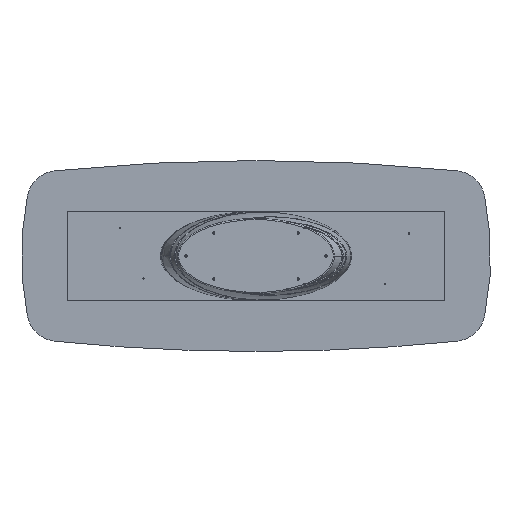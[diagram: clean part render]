
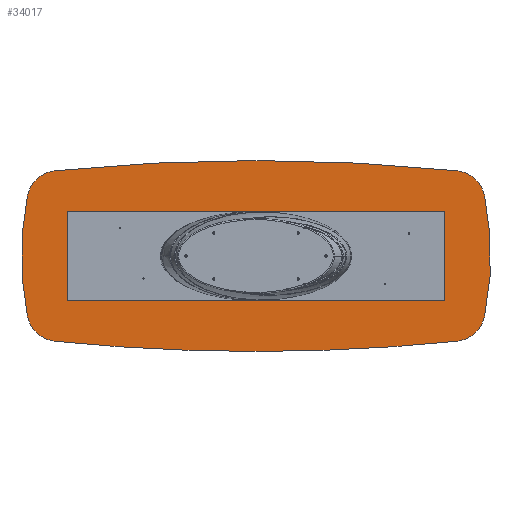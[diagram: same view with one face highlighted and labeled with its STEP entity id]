
A CAD part, front view. The second image highlights one B-rep face of the part: STEP entity #34017.
In plain terms, the highlighted planar face has unit normal (0, -1, 0).
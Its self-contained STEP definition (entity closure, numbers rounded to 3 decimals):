
#521 = AXIS2_PLACEMENT_3D ( 'NONE', #14464, #31756, #16924 ) ;
#609 = CIRCLE ( 'NONE', #30604, 200. ) ;
#918 = ORIENTED_EDGE ( 'NONE', *, *, #25051, .F. ) ;
#1035 = CARTESIAN_POINT ( 'NONE',  ( -1241.22, 50., 337.213 ) ) ;
#1151 = CIRCLE ( 'NONE', #10734, 1900. ) ;
#1593 = DIRECTION ( 'NONE',  ( 0., 0., 1. ) ) ;
#1867 = DIRECTION ( 'NONE',  ( 0., 0., 1. ) ) ;
#1869 = CARTESIAN_POINT ( 'NONE',  ( 0., 50., 11900. ) ) ;
#1921 = ORIENTED_EDGE ( 'NONE', *, *, #25863, .F. ) ;
#2047 = PLANE ( 'NONE',  #5960 ) ;
#2600 = FACE_OUTER_BOUND ( 'NONE', #9265, .T. ) ;
#3055 = EDGE_CURVE ( 'NONE', #6907, #35013, #1151, .T. ) ;
#3081 = EDGE_CURVE ( 'NONE', #29983, #25620, #26921, .T. ) ;
#3520 = AXIS2_PLACEMENT_3D ( 'NONE', #8095, #10907, #22544 ) ;
#3873 = ORIENTED_EDGE ( 'NONE', *, *, #28093, .F. ) ;
#3909 = ORIENTED_EDGE ( 'NONE', *, *, #3055, .F. ) ;
#4225 = CARTESIAN_POINT ( 'NONE',  ( -1437.245, 50., 376.885 ) ) ;
#4692 = CIRCLE ( 'NONE', #17858, 200. ) ;
#4746 = CIRCLE ( 'NONE', #22727, 200. ) ;
#5028 = ORIENTED_EDGE ( 'NONE', *, *, #19341, .F. ) ;
#5914 = CARTESIAN_POINT ( 'NONE',  ( 1261.402, 50., 536.192 ) ) ;
#5960 = AXIS2_PLACEMENT_3D ( 'NONE', #36600, #7869, #1867 ) ;
#6422 = VERTEX_POINT ( 'NONE', #35112 ) ;
#6907 = VERTEX_POINT ( 'NONE', #13263 ) ;
#7317 = DIRECTION ( 'NONE',  ( 0., 1., 0. ) ) ;
#7435 = VERTEX_POINT ( 'NONE', #5914 ) ;
#7636 = EDGE_CURVE ( 'NONE', #6422, #7435, #23919, .T. ) ;
#7869 = DIRECTION ( 'NONE',  ( 0., 1., 0. ) ) ;
#8095 = CARTESIAN_POINT ( 'NONE',  ( 0., 50., 11900. ) ) ;
#8353 = AXIS2_PLACEMENT_3D ( 'NONE', #13543, #32723, #18994 ) ;
#9265 = EDGE_LOOP ( 'NONE', ( #30167, #3909, #5028, #1921, #26702, #20692, #918, #3873, #27368 ) ) ;
#9803 = VERTEX_POINT ( 'NONE', #31034 ) ;
#9836 = DIRECTION ( 'NONE',  ( 0., 0., -1. ) ) ;
#10095 = AXIS2_PLACEMENT_3D ( 'NONE', #27298, #32574, #9836 ) ;
#10734 = AXIS2_PLACEMENT_3D ( 'NONE', #31209, #11090, #36456 ) ;
#10799 = VERTEX_POINT ( 'NONE', #33470 ) ;
#10907 = DIRECTION ( 'NONE',  ( 0., 1., 0. ) ) ;
#11090 = DIRECTION ( 'NONE',  ( 0., 1., 0. ) ) ;
#11276 = EDGE_CURVE ( 'NONE', #10799, #29983, #35946, .T. ) ;
#12539 = AXIS2_PLACEMENT_3D ( 'NONE', #1869, #7317, #27594 ) ;
#13263 = CARTESIAN_POINT ( 'NONE',  ( -1437.245, 50., -376.885 ) ) ;
#13543 = CARTESIAN_POINT ( 'NONE',  ( 1241.22, 50., -337.213 ) ) ;
#13714 = CIRCLE ( 'NONE', #10095, 1900. ) ;
#14464 = CARTESIAN_POINT ( 'NONE',  ( 0., 50., -11900. ) ) ;
#16863 = DIRECTION ( 'NONE',  ( 0., 1., 0. ) ) ;
#16924 = DIRECTION ( 'NONE',  ( 0., 0., 1. ) ) ;
#17858 = AXIS2_PLACEMENT_3D ( 'NONE', #22862, #16863, #25672 ) ;
#18994 = DIRECTION ( 'NONE',  ( 0., 0., 1. ) ) ;
#19341 = EDGE_CURVE ( 'NONE', #9803, #6907, #4692, .T. ) ;
#20692 = ORIENTED_EDGE ( 'NONE', *, *, #11276, .F. ) ;
#21138 = DIRECTION ( 'NONE',  ( 0., 0., 1. ) ) ;
#21523 = CIRCLE ( 'NONE', #12539, 12500. ) ;
#21527 = CARTESIAN_POINT ( 'NONE',  ( 1261.402, 50., -536.192 ) ) ;
#22544 = DIRECTION ( 'NONE',  ( 0., 0., -1. ) ) ;
#22727 = AXIS2_PLACEMENT_3D ( 'NONE', #35796, #23960, #21138 ) ;
#22862 = CARTESIAN_POINT ( 'NONE',  ( -1241.22, 50., -337.213 ) ) ;
#23919 = CIRCLE ( 'NONE', #521, 12500. ) ;
#23960 = DIRECTION ( 'NONE',  ( 0., 1., 0. ) ) ;
#25051 = EDGE_CURVE ( 'NONE', #29828, #10799, #13714, .T. ) ;
#25620 = VERTEX_POINT ( 'NONE', #25649 ) ;
#25649 = CARTESIAN_POINT ( 'NONE',  ( 0., 50., -600. ) ) ;
#25672 = DIRECTION ( 'NONE',  ( 0., 0., 1. ) ) ;
#25863 = EDGE_CURVE ( 'NONE', #25620, #9803, #21523, .T. ) ;
#26702 = ORIENTED_EDGE ( 'NONE', *, *, #3081, .F. ) ;
#26921 = CIRCLE ( 'NONE', #3520, 12500. ) ;
#26940 = DIRECTION ( 'NONE',  ( 0., 1., 0. ) ) ;
#27298 = CARTESIAN_POINT ( 'NONE',  ( -425., 50., 0. ) ) ;
#27368 = ORIENTED_EDGE ( 'NONE', *, *, #7636, .F. ) ;
#27594 = DIRECTION ( 'NONE',  ( 0., 0., -1. ) ) ;
#28093 = EDGE_CURVE ( 'NONE', #7435, #29828, #4746, .T. ) ;
#29828 = VERTEX_POINT ( 'NONE', #34646 ) ;
#29983 = VERTEX_POINT ( 'NONE', #21527 ) ;
#30167 = ORIENTED_EDGE ( 'NONE', *, *, #35226, .F. ) ;
#30604 = AXIS2_PLACEMENT_3D ( 'NONE', #1035, #26940, #1593 ) ;
#31034 = CARTESIAN_POINT ( 'NONE',  ( -1261.402, 50., -536.192 ) ) ;
#31209 = CARTESIAN_POINT ( 'NONE',  ( 425., 50., 0. ) ) ;
#31756 = DIRECTION ( 'NONE',  ( 0., 1., 0. ) ) ;
#32574 = DIRECTION ( 'NONE',  ( 0., 1., 0. ) ) ;
#32723 = DIRECTION ( 'NONE',  ( 0., 1., 0. ) ) ;
#33470 = CARTESIAN_POINT ( 'NONE',  ( 1437.245, 50., -376.885 ) ) ;
#34017 = ADVANCED_FACE ( 'NONE', ( #2600 ), #2047, .F. ) ;
#34646 = CARTESIAN_POINT ( 'NONE',  ( 1437.245, 50., 376.885 ) ) ;
#35013 = VERTEX_POINT ( 'NONE', #4225 ) ;
#35112 = CARTESIAN_POINT ( 'NONE',  ( -1261.402, 50., 536.192 ) ) ;
#35226 = EDGE_CURVE ( 'NONE', #35013, #6422, #609, .T. ) ;
#35796 = CARTESIAN_POINT ( 'NONE',  ( 1241.22, 50., 337.213 ) ) ;
#35946 = CIRCLE ( 'NONE', #8353, 200. ) ;
#36456 = DIRECTION ( 'NONE',  ( 0., 0., 1. ) ) ;
#36600 = CARTESIAN_POINT ( 'NONE',  ( -620.61, 50., -5781.394 ) ) ;
